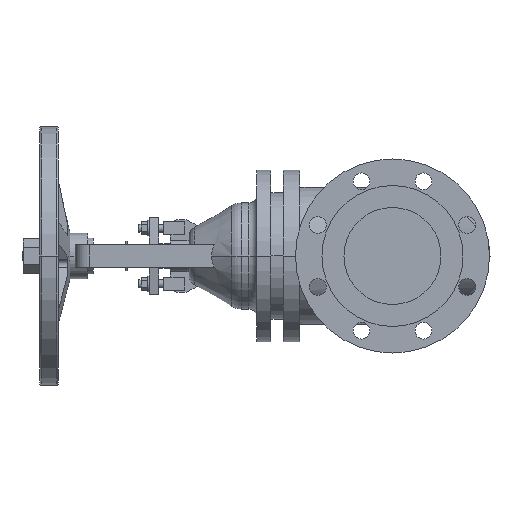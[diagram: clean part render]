
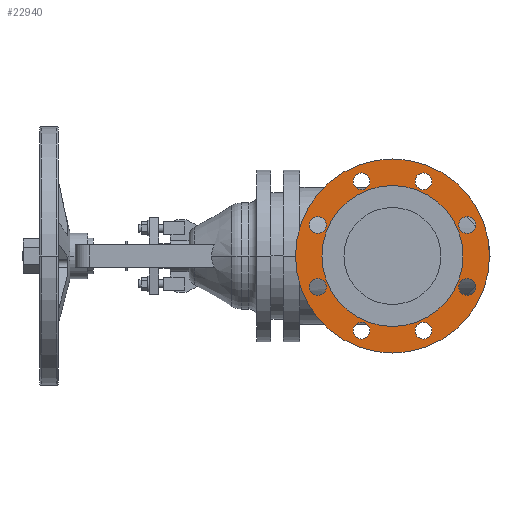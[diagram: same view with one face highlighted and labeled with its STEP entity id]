
A CAD part, left-side view. The second image highlights one B-rep face of the part: STEP entity #22940.
In plain terms, the highlighted planar face has unit normal (-1, 0, 0).
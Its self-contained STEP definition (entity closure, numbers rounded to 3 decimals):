
#11180=CARTESIAN_POINT('',(5.,0.,-150.));
#11190=VERTEX_POINT('',#11180);
#11220=CARTESIAN_POINT('',(5.,0.,0.));
#11230=DIRECTION('',(1.,0.,0.));
#11240=DIRECTION('',(0.,0.,-1.));
#11250=AXIS2_PLACEMENT_3D('',#11220,#11230,#11240);
#11260=CIRCLE('',#11250,150.);
#11270=CARTESIAN_POINT('',(5.,0.,150.));
#11280=VERTEX_POINT('',#11270);
#11290=EDGE_CURVE('',#11280,#11190,#11260,.T.);
#11670=CARTESIAN_POINT('',(5.,47.835,-102.485));
#11680=VERTEX_POINT('',#11670);
#11710=CARTESIAN_POINT('',(5.,47.835,-115.485));
#11720=DIRECTION('',(-1.,0.,0.));
#11730=DIRECTION('',(0.,0.,-1.));
#11740=AXIS2_PLACEMENT_3D('',#11710,#11720,#11730);
#11750=CIRCLE('',#11740,13.);
#11760=CARTESIAN_POINT('',(5.,47.835,-128.485));
#11770=VERTEX_POINT('',#11760);
#11780=EDGE_CURVE('',#11770,#11680,#11750,.T.);
#12160=CARTESIAN_POINT('',(5.,-47.835,-102.485));
#12170=VERTEX_POINT('',#12160);
#12330=CARTESIAN_POINT('',(5.,-47.835,-128.485));
#12340=VERTEX_POINT('',#12330);
#12370=CARTESIAN_POINT('',(5.,-47.835,-115.485));
#12380=DIRECTION('',(-1.,0.,0.));
#12390=DIRECTION('',(0.,0.,-1.));
#12400=AXIS2_PLACEMENT_3D('',#12370,#12380,#12390);
#12410=CIRCLE('',#12400,13.);
#12420=EDGE_CURVE('',#12170,#12340,#12410,.T.);
#12650=CARTESIAN_POINT('',(5.,115.485,-60.835));
#12660=VERTEX_POINT('',#12650);
#12690=CARTESIAN_POINT('',(5.,115.485,-47.835));
#12700=DIRECTION('',(-1.,0.,0.));
#12710=DIRECTION('',(0.,0.,-1.));
#12720=AXIS2_PLACEMENT_3D('',#12690,#12700,#12710);
#12730=CIRCLE('',#12720,13.);
#12740=CARTESIAN_POINT('',(5.,115.485,-34.835));
#12750=VERTEX_POINT('',#12740);
#12760=EDGE_CURVE('',#12750,#12660,#12730,.T.);
#13140=CARTESIAN_POINT('',(5.,-115.485,-60.835));
#13150=VERTEX_POINT('',#13140);
#13310=CARTESIAN_POINT('',(5.,-115.485,-34.835));
#13320=VERTEX_POINT('',#13310);
#13350=CARTESIAN_POINT('',(5.,-115.485,-47.835));
#13360=DIRECTION('',(-1.,0.,0.));
#13370=DIRECTION('',(0.,0.,-1.));
#13380=AXIS2_PLACEMENT_3D('',#13350,#13360,#13370);
#13390=CIRCLE('',#13380,13.);
#13400=EDGE_CURVE('',#13150,#13320,#13390,.T.);
#13630=CARTESIAN_POINT('',(5.,115.485,34.835));
#13640=VERTEX_POINT('',#13630);
#13800=CARTESIAN_POINT('',(5.,115.485,60.835));
#13810=VERTEX_POINT('',#13800);
#13840=CARTESIAN_POINT('',(5.,115.485,47.835));
#13850=DIRECTION('',(-1.,0.,0.));
#13860=DIRECTION('',(0.,0.,-1.));
#13870=AXIS2_PLACEMENT_3D('',#13840,#13850,#13860);
#13880=CIRCLE('',#13870,13.);
#13890=EDGE_CURVE('',#13640,#13810,#13880,.T.);
#14120=CARTESIAN_POINT('',(5.,-115.485,60.835));
#14130=VERTEX_POINT('',#14120);
#14160=CARTESIAN_POINT('',(5.,-115.485,47.835));
#14170=DIRECTION('',(-1.,0.,0.));
#14180=DIRECTION('',(0.,0.,-1.));
#14190=AXIS2_PLACEMENT_3D('',#14160,#14170,#14180);
#14200=CIRCLE('',#14190,13.);
#14210=CARTESIAN_POINT('',(5.,-115.485,34.835));
#14220=VERTEX_POINT('',#14210);
#14230=EDGE_CURVE('',#14220,#14130,#14200,.T.);
#14610=CARTESIAN_POINT('',(5.,47.835,128.485));
#14620=VERTEX_POINT('',#14610);
#14650=CARTESIAN_POINT('',(5.,47.835,115.485));
#14660=DIRECTION('',(-1.,0.,0.));
#14670=DIRECTION('',(0.,0.,-1.));
#14680=AXIS2_PLACEMENT_3D('',#14650,#14660,#14670);
#14690=CIRCLE('',#14680,13.);
#14700=CARTESIAN_POINT('',(5.,47.835,102.485));
#14710=VERTEX_POINT('',#14700);
#14720=EDGE_CURVE('',#14710,#14620,#14690,.T.);
#15100=CARTESIAN_POINT('',(5.,-47.835,128.485));
#15110=VERTEX_POINT('',#15100);
#15140=CARTESIAN_POINT('',(5.,-47.835,115.485));
#15150=DIRECTION('',(-1.,0.,0.));
#15160=DIRECTION('',(0.,0.,-1.));
#15170=AXIS2_PLACEMENT_3D('',#15140,#15150,#15160);
#15180=CIRCLE('',#15170,13.);
#15190=CARTESIAN_POINT('',(5.,-47.835,102.485));
#15200=VERTEX_POINT('',#15190);
#15210=EDGE_CURVE('',#15200,#15110,#15180,.T.);
#15590=CARTESIAN_POINT('',(5.,109.,0.));
#15600=VERTEX_POINT('',#15590);
#15630=CARTESIAN_POINT('',(5.,0.,0.));
#15640=DIRECTION('',(-1.,0.,0.));
#15650=DIRECTION('',(0.,1.,0.));
#15660=AXIS2_PLACEMENT_3D('',#15630,#15640,#15650);
#15670=CIRCLE('',#15660,109.);
#15680=CARTESIAN_POINT('',(5.,-109.,0.));
#15690=VERTEX_POINT('',#15680);
#15700=EDGE_CURVE('',#15690,#15600,#15670,.T.);
#22390=CARTESIAN_POINT('',(5.,129.5,0.));
#22400=DIRECTION('',(1.,0.,0.));
#22410=DIRECTION('',(0.,-1.,0.));
#22420=AXIS2_PLACEMENT_3D('',#22390,#22400,#22410);
#22430=PLANE('',#22420);
#22440=ORIENTED_EDGE('',*,*,#15700,.F.);
#22450=EDGE_CURVE('',#15600,#15690,#15670,.T.);
#22460=ORIENTED_EDGE('',*,*,#22450,.F.);
#22470=EDGE_LOOP('',(#22460,#22440));
#22480=FACE_BOUND('',#22470,.T.);
#22490=ORIENTED_EDGE('',*,*,#11290,.F.);
#22500=EDGE_CURVE('',#11190,#11280,#11260,.T.);
#22510=ORIENTED_EDGE('',*,*,#22500,.F.);
#22520=EDGE_LOOP('',(#22510,#22490));
#22530=FACE_OUTER_BOUND('',#22520,.T.);
#22540=EDGE_CURVE('',#11680,#11770,#11750,.T.);
#22550=ORIENTED_EDGE('',*,*,#22540,.F.);
#22560=ORIENTED_EDGE('',*,*,#11780,.F.);
#22570=EDGE_LOOP('',(#22560,#22550));
#22580=FACE_BOUND('',#22570,.T.);
#22590=EDGE_CURVE('',#12340,#12170,#12410,.T.);
#22600=ORIENTED_EDGE('',*,*,#22590,.F.);
#22610=ORIENTED_EDGE('',*,*,#12420,.F.);
#22620=EDGE_LOOP('',(#22610,#22600));
#22630=FACE_BOUND('',#22620,.T.);
#22640=ORIENTED_EDGE('',*,*,#12760,.F.);
#22650=EDGE_CURVE('',#12660,#12750,#12730,.T.);
#22660=ORIENTED_EDGE('',*,*,#22650,.F.);
#22670=EDGE_LOOP('',(#22660,#22640));
#22680=FACE_BOUND('',#22670,.T.);
#22690=EDGE_CURVE('',#13320,#13150,#13390,.T.);
#22700=ORIENTED_EDGE('',*,*,#22690,.F.);
#22710=ORIENTED_EDGE('',*,*,#13400,.F.);
#22720=EDGE_LOOP('',(#22710,#22700));
#22730=FACE_BOUND('',#22720,.T.);
#22740=EDGE_CURVE('',#13810,#13640,#13880,.T.);
#22750=ORIENTED_EDGE('',*,*,#22740,.F.);
#22760=ORIENTED_EDGE('',*,*,#13890,.F.);
#22770=EDGE_LOOP('',(#22760,#22750));
#22780=FACE_BOUND('',#22770,.T.);
#22790=EDGE_CURVE('',#14130,#14220,#14200,.T.);
#22800=ORIENTED_EDGE('',*,*,#22790,.F.);
#22810=ORIENTED_EDGE('',*,*,#14230,.F.);
#22820=EDGE_LOOP('',(#22810,#22800));
#22830=FACE_BOUND('',#22820,.T.);
#22840=ORIENTED_EDGE('',*,*,#14720,.F.);
#22850=EDGE_CURVE('',#14620,#14710,#14690,.T.);
#22860=ORIENTED_EDGE('',*,*,#22850,.F.);
#22870=EDGE_LOOP('',(#22860,#22840));
#22880=FACE_BOUND('',#22870,.T.);
#22890=EDGE_CURVE('',#15110,#15200,#15180,.T.);
#22900=ORIENTED_EDGE('',*,*,#22890,.F.);
#22910=ORIENTED_EDGE('',*,*,#15210,.F.);
#22920=EDGE_LOOP('',(#22910,#22900));
#22930=FACE_BOUND('',#22920,.T.);
#22940=ADVANCED_FACE('',(#22480,#22530,#22580,#22630,#22680,#22730,
#22780,#22830,#22880,#22930),#22430,.F.);
